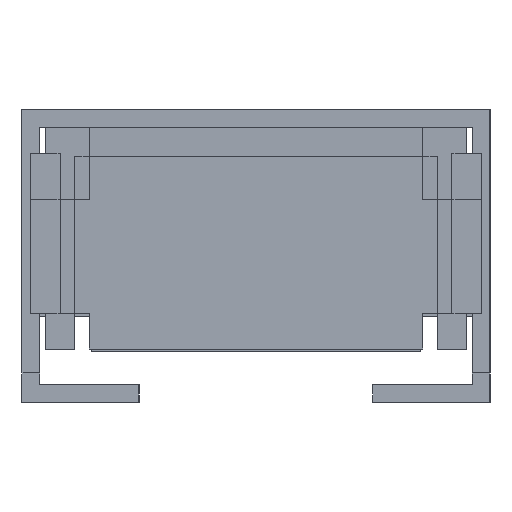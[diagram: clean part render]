
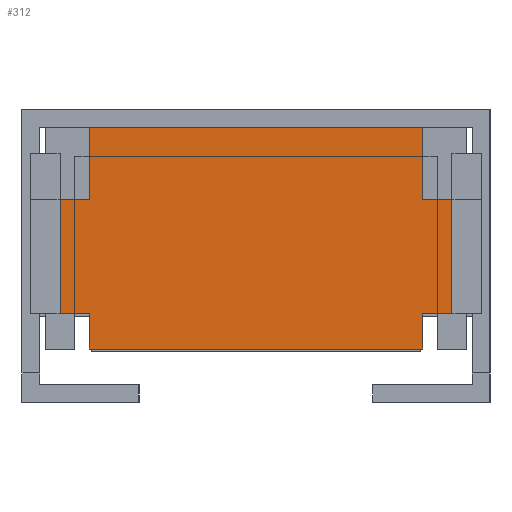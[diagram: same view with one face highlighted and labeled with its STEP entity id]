
A CAD part, left-side view. The second image highlights one B-rep face of the part: STEP entity #312.
In plain terms, the highlighted planar face has unit normal (-1, 0, 0).
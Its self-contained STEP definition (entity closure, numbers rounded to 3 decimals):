
#312 = ADVANCED_FACE( '', ( #612 ), #613, .F. );
#612 = FACE_OUTER_BOUND( '', #908, .T. );
#613 = PLANE( '', #909 );
#908 = EDGE_LOOP( '', ( #1730, #1731, #1732, #1733, #1734, #1735, #1736, #1737, #1738, #1739, #1740, #1741 ) );
#909 = AXIS2_PLACEMENT_3D( '', #1742, #1743, #1744 );
#1730 = ORIENTED_EDGE( '', *, *, #2253, .F. );
#1731 = ORIENTED_EDGE( '', *, *, #1930, .F. );
#1732 = ORIENTED_EDGE( '', *, *, #2139, .F. );
#1733 = ORIENTED_EDGE( '', *, *, #2187, .T. );
#1734 = ORIENTED_EDGE( '', *, *, #2035, .F. );
#1735 = ORIENTED_EDGE( '', *, *, #2221, .T. );
#1736 = ORIENTED_EDGE( '', *, *, #2128, .T. );
#1737 = ORIENTED_EDGE( '', *, *, #2254, .T. );
#1738 = ORIENTED_EDGE( '', *, *, #2024, .T. );
#1739 = ORIENTED_EDGE( '', *, *, #2212, .F. );
#1740 = ORIENTED_EDGE( '', *, *, #2205, .T. );
#1741 = ORIENTED_EDGE( '', *, *, #2062, .F. );
#1742 = CARTESIAN_POINT( '', ( -6., 14.25, -18.95 ) );
#1743 = DIRECTION( '', ( 1., 0., 0. ) );
#1744 = DIRECTION( '', ( 0., 0., -1. ) );
#1930 = EDGE_CURVE( '', #2326, #2328, #2329, .T. );
#2024 = EDGE_CURVE( '', #2491, #2488, #2492, .T. );
#2035 = EDGE_CURVE( '', #2508, #2509, #2510, .T. );
#2062 = EDGE_CURVE( '', #2550, #2552, #2553, .T. );
#2128 = EDGE_CURVE( '', #2655, #2652, #2656, .T. );
#2139 = EDGE_CURVE( '', #2670, #2326, #2672, .T. );
#2187 = EDGE_CURVE( '', #2670, #2509, #2737, .T. );
#2205 = EDGE_CURVE( '', #2762, #2552, #2763, .T. );
#2212 = EDGE_CURVE( '', #2762, #2488, #2770, .T. );
#2221 = EDGE_CURVE( '', #2508, #2655, #2782, .T. );
#2253 = EDGE_CURVE( '', #2328, #2550, #2816, .T. );
#2254 = EDGE_CURVE( '', #2652, #2491, #2817, .T. );
#2326 = VERTEX_POINT( '', #2911 );
#2328 = VERTEX_POINT( '', #2914 );
#2329 = LINE( '', #2915, #2916 );
#2488 = VERTEX_POINT( '', #3151 );
#2491 = VERTEX_POINT( '', #3155 );
#2492 = LINE( '', #3156, #3157 );
#2508 = VERTEX_POINT( '', #3181 );
#2509 = VERTEX_POINT( '', #3182 );
#2510 = LINE( '', #3183, #3184 );
#2550 = VERTEX_POINT( '', #3244 );
#2552 = VERTEX_POINT( '', #3247 );
#2553 = LINE( '', #3248, #3249 );
#2652 = VERTEX_POINT( '', #3395 );
#2655 = VERTEX_POINT( '', #3399 );
#2656 = LINE( '', #3400, #3401 );
#2670 = VERTEX_POINT( '', #3422 );
#2672 = LINE( '', #3425, #3426 );
#2737 = LINE( '', #3524, #3525 );
#2762 = VERTEX_POINT( '', #3563 );
#2763 = LINE( '', #3564, #3565 );
#2770 = LINE( '', #3576, #3577 );
#2782 = LINE( '', #3594, #3595 );
#2816 = LINE( '', #3646, #3647 );
#2817 = LINE( '', #3648, #3649 );
#2911 = CARTESIAN_POINT( '', ( -6., 16.75, -6.2 ) );
#2914 = CARTESIAN_POINT( '', ( -6., 14.25, -6.2 ) );
#2915 = CARTESIAN_POINT( '', ( -6., 16.75, -6.2 ) );
#2916 = VECTOR( '', #3704, 1000. );
#3151 = CARTESIAN_POINT( '', ( -6., -16.75, -6.2 ) );
#3155 = CARTESIAN_POINT( '', ( -6., -16.75, -15.9 ) );
#3156 = CARTESIAN_POINT( '', ( -6., -16.75, -15.9 ) );
#3157 = VECTOR( '', #3782, 1000. );
#3181 = CARTESIAN_POINT( '', ( -6., 14.25, -18.95 ) );
#3182 = CARTESIAN_POINT( '', ( -6., 14.25, -15.9 ) );
#3183 = CARTESIAN_POINT( '', ( -6., 14.25, -18.95 ) );
#3184 = VECTOR( '', #3791, 1000. );
#3244 = CARTESIAN_POINT( '', ( -6., 14.25, 0. ) );
#3247 = CARTESIAN_POINT( '', ( -6., -14.25, 0. ) );
#3248 = CARTESIAN_POINT( '', ( -6., 14.25, 0. ) );
#3249 = VECTOR( '', #3813, 1000. );
#3395 = CARTESIAN_POINT( '', ( -6., -14.25, -15.9 ) );
#3399 = CARTESIAN_POINT( '', ( -6., -14.25, -18.95 ) );
#3400 = CARTESIAN_POINT( '', ( -6., -14.25, -18.95 ) );
#3401 = VECTOR( '', #3874, 1000. );
#3422 = CARTESIAN_POINT( '', ( -6., 16.75, -15.9 ) );
#3425 = CARTESIAN_POINT( '', ( -6., 16.75, -15.9 ) );
#3426 = VECTOR( '', #3883, 1000. );
#3524 = CARTESIAN_POINT( '', ( -6., 16.75, -15.9 ) );
#3525 = VECTOR( '', #3920, 1000. );
#3563 = CARTESIAN_POINT( '', ( -6., -14.25, -6.2 ) );
#3564 = CARTESIAN_POINT( '', ( -6., -14.25, -18.95 ) );
#3565 = VECTOR( '', #3934, 1000. );
#3576 = CARTESIAN_POINT( '', ( -6., 16.75, -6.2 ) );
#3577 = VECTOR( '', #3939, 1000. );
#3594 = CARTESIAN_POINT( '', ( -6., 14.25, -18.95 ) );
#3595 = VECTOR( '', #3945, 1000. );
#3646 = CARTESIAN_POINT( '', ( -6., 14.25, -18.95 ) );
#3647 = VECTOR( '', #3966, 1000. );
#3648 = CARTESIAN_POINT( '', ( -6., 16.75, -15.9 ) );
#3649 = VECTOR( '', #3967, 1000. );
#3704 = DIRECTION( '', ( 0., -1., 0. ) );
#3782 = DIRECTION( '', ( 0., 0., 1. ) );
#3791 = DIRECTION( '', ( 0., 0., 1. ) );
#3813 = DIRECTION( '', ( 0., -1., 0. ) );
#3874 = DIRECTION( '', ( 0., 0., 1. ) );
#3883 = DIRECTION( '', ( 0., 0., 1. ) );
#3920 = DIRECTION( '', ( 0., -1., 0. ) );
#3934 = DIRECTION( '', ( 0., 0., 1. ) );
#3939 = DIRECTION( '', ( 0., -1., 0. ) );
#3945 = DIRECTION( '', ( 0., -1., 0. ) );
#3966 = DIRECTION( '', ( 0., 0., 1. ) );
#3967 = DIRECTION( '', ( 0., -1., 0. ) );
